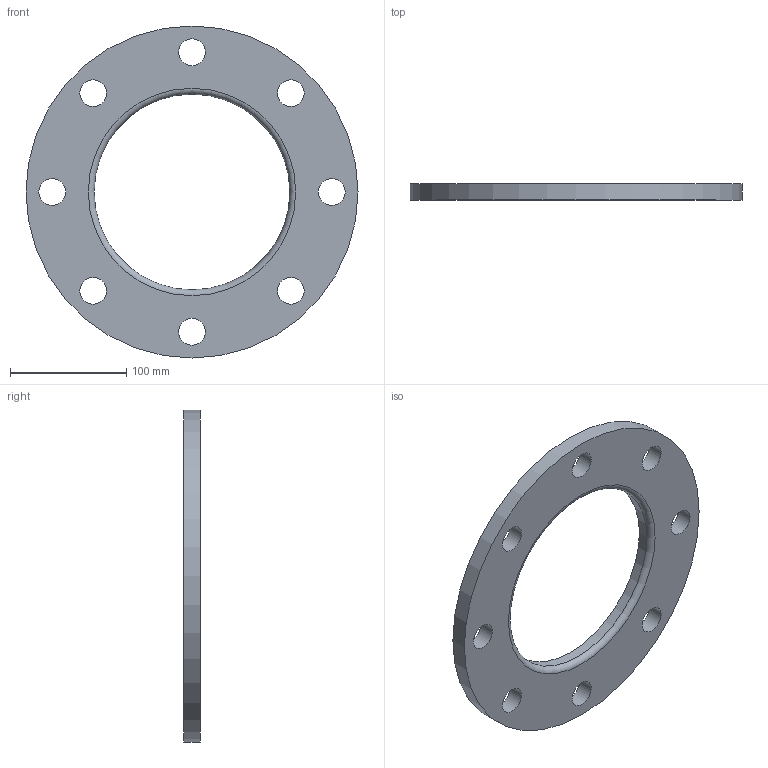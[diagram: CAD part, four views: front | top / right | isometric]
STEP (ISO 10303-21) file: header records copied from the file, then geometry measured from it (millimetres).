
FILE_DESCRIPTION(/* description */ (''),/* implementation_level */ '2;1');
FILE_NAME(/* name */ 'Z:\Geberit\Export\NewStep\369745.stp',/* time_stamp */ '2014-04-02T08:03:17+02:00',/* author */ ('nelson'),/* organization */ (''),/* preprocessor_version */ 'ST-DEVELOPER v15.2',/* originating_system */ 'Autodesk Inventor 2014',/* authorisation */ '');
FILE_SCHEMA (('AUTOMOTIVE_DESIGN { 1 0 10303 214 3 1 1 }'));
Length unit declared in the file: millimetre
Products named in the file (1): 369745
Bounding box: 285 x 14 x 285 mm (x, y, z)
Volume: 533373.9 mm3; surface area: 103501.4 mm2
Topology: 1 solids, 1 shells, 13 faces, 32 edges, 21 vertices
Faces by surface type: cylinder 10, plane 2, torus 1
Full cylindrical faces by diameter (mm): 23 x8, 168 x1, 285 x1
Entity records: 401 total; most frequent: DIRECTION 70, CARTESIAN_POINT 56, EDGE_LOOP 42, ORIENTED_EDGE 42, AXIS2_PLACEMENT_3D 35, FACE_BOUND 30, CIRCLE 21, VERTEX_POINT 21
